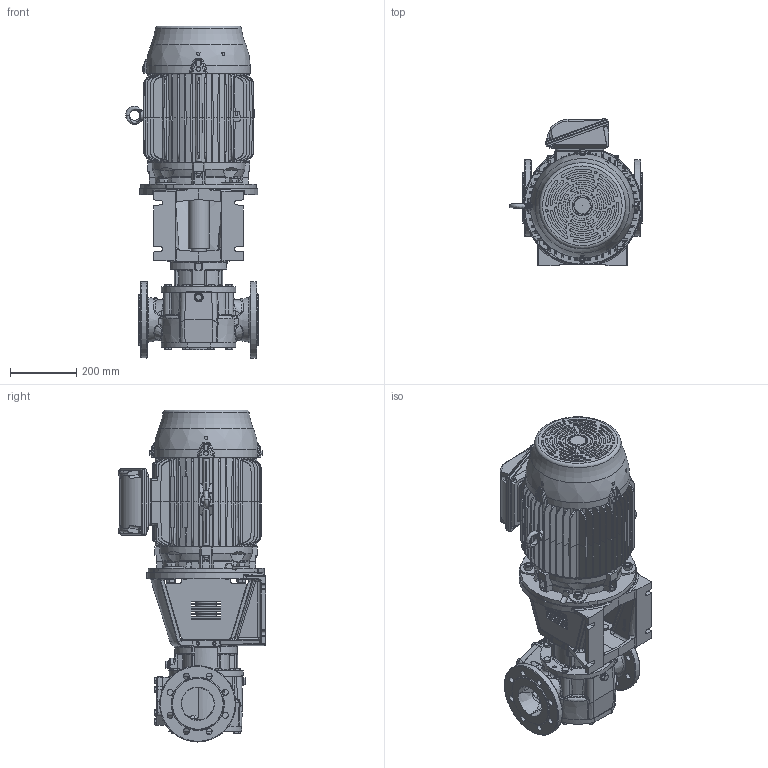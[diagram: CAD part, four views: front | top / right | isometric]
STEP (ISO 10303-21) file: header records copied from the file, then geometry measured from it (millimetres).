
FILE_DESCRIPTION(/* description */ (''),/* implementation_level */ '2;1');
FILE_NAME(/* name */ 'C:\V\JPP\Designs\GEAR PUMPS\PRODUCT ENGINEERING\EUROPE\TG BLOC\TG BLOC_86-100_G2_O_NRV-_160M-STEP.stp',/* time_stamp */ '2021-03-19T13:47:06+01:00',/* author */ ('A77THR'),/* organization */ (''),/* preprocessor_version */ 'ST-DEVELOPER v18.1',/* originating_system */ 'Autodesk Inventor 2020',/* authorisation */ '');
FILE_SCHEMA (('AUTOMOTIVE_DESIGN { 1 0 10303 214 3 1 1 }'));
Length unit declared in the file: millimetre
Products named in the file (1): TG BLOC_86-100_G2_O_NRV-_160M
Bounding box: 399.99 x 444.6 x 1000 mm (x, y, z)
Volume: 51127776.2 mm3; surface area: 2564138 mm2
Topology: 1 solids, 1 shells, 4655 faces, 12236 edges, 7737 vertices
Faces by surface type: plane 1874, bspline 1030, cylinder 1001, cone 567, torus 135, sphere 48
Full cylindrical faces by diameter (mm): 4 x1, 4.5 x8, 4.917 x8, 5 x4, 6.3 x1, 6.647 x1, 7 x4, 7.5 x3, 8 x13, 9 x2, 9.188 x8, 9.4 x1, 10 x16, 10.106 x7, 10.2 x2, 11 x8, 11.053 x4, 11.445 x2, 11.6 x7, 12 x4, 12.5 x3, 13 x5, 13.157 x2, 13.2 x2, 14 x8, 15.011 x2, 15.4 x8, 16 x1, 17.2 x20, 18 x18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
Entity records: 195745 total; most frequent: CARTESIAN_POINT 84197, ORIENTED_EDGE 24258, DIRECTION 20127, EDGE_CURVE 12129, AXIS2_PLACEMENT_3D 7757, VERTEX_POINT 7737, EDGE_LOOP 5060, FACE_OUTER_BOUND 4655
